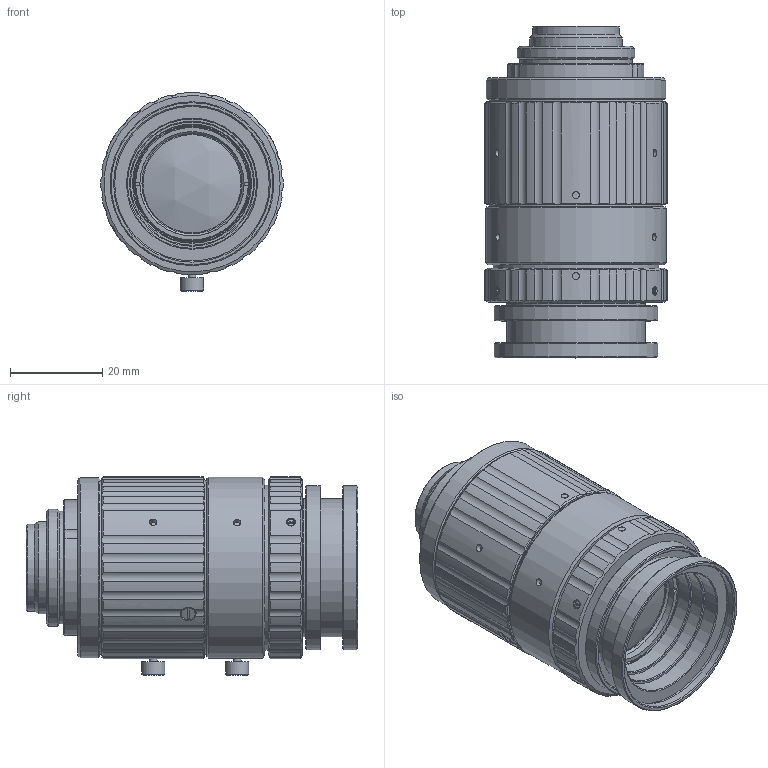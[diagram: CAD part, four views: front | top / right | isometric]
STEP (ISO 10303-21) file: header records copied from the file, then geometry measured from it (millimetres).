
FILE_DESCRIPTION(/* description */ ('Unknown'),/* implementation_level */ '2;1');
FILE_NAME(/* name */ 'V3522-MPZ_210401',/* time_stamp */ '2021-04-01T10:36:34+09:00',/* author */ ('Unknown'),/* organization */ ('Unknown'),/* preprocessor_version */ 'ST-DEVELOPER v16.7',/* originating_system */ 'DEX',/* authorisation */ $);
FILE_SCHEMA (('AP203_CONFIGURATION_CONTROLLED_3D_DESIGN_OF_MECHANICAL_PARTS_AND_ASSEMBLIES_MIM_LF { 1 0 10303 203 3 1 4 }','AUTOMOTIVE_DESIGN {1 0 10303 214 3 1 1}'));
Length unit declared in the file: millimetre
Products named in the file (3): V3522-MPZ_210401; V3522-MPZ_Infinity; V3522-MPZ_Mechnical limit
Assembly tree (2 placements, depth 2):
  V3522-MPZ_210401
    V3522-MPZ_Infinity
    V3522-MPZ_Mechnical limit
Bounding box: 39.5 x 71.91 x 43.11 mm (x, y, z)
Volume: 123140 mm3; surface area: 26927.1 mm2
Topology: 2 solids, 10 shells, 857 faces, 2124 edges, 1374 vertices
Faces by surface type: cylinder 354, plane 293, cone 190, bspline 12, torus 4, sphere 4
Full cylindrical faces by diameter (mm): 1.5 x6, 1.567 x10, 1.7 x10, 1.8 x6, 2 x2, 2.5 x2, 2.8 x2, 3 x8, 3.4 x2, 4.999 x4, 16.5 x2, 17.313 x2, 18.8 x2, 20.013 x2, 21.7 x2, 21.871 x1, 22.6 x2, 23 x2, 24.4 x2, 25.4 x4, 26.7 x2, 28 x2, 28.7 x1, 30 x2, 33.5 x2, 34 x2, 35.5 x2, 35.8 x2, 37.6 x4, 38.2 x4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
Entity records: 31048 total; most frequent: CARTESIAN_POINT 6138, DIRECTION 3774, ORIENTED_EDGE 3746, EDGE_CURVE 1873, AXIS2_PLACEMENT_3D 1495, VERTEX_POINT 1301, EDGE_LOOP 1138, FACE_BOUND 1138
